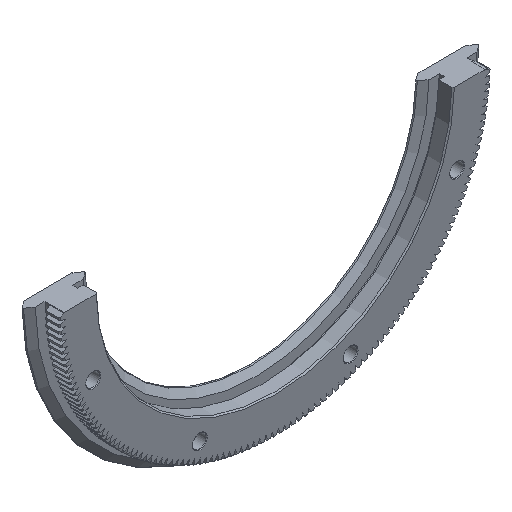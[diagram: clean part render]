
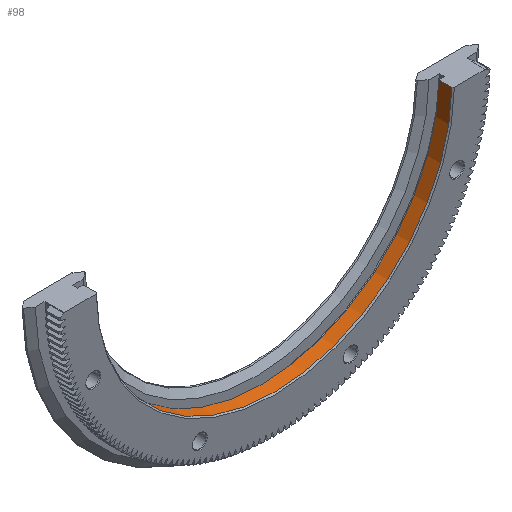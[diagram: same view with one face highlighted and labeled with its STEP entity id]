
A CAD part, isometric view. The second image highlights one B-rep face of the part: STEP entity #98.
In plain terms, the highlighted cylindrical face has radius 71.8 mm (diameter 143.6 mm), a partial arc.
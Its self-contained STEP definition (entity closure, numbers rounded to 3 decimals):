
#98 = ADVANCED_FACE( '', ( #811 ), #812, .F. );
#811 = FACE_OUTER_BOUND( '', #2196, .T. );
#812 = CYLINDRICAL_SURFACE( '', #2197, 71.8 );
#2196 = EDGE_LOOP( '', ( #3928, #3929, #3930, #3931 ) );
#2197 = AXIS2_PLACEMENT_3D( '', #3932, #3933, #3934 );
#3928 = ORIENTED_EDGE( '', *, *, #9444, .F. );
#3929 = ORIENTED_EDGE( '', *, *, #9160, .T. );
#3930 = ORIENTED_EDGE( '', *, *, #9445, .T. );
#3931 = ORIENTED_EDGE( '', *, *, #9436, .T. );
#3932 = CARTESIAN_POINT( '', ( 0., 0., 0. ) );
#3933 = DIRECTION( '', ( 0., 1., 0. ) );
#3934 = DIRECTION( '', ( 0., 0., -1. ) );
#9160 = EDGE_CURVE( '', #10964, #10962, #10965, .T. );
#9436 = EDGE_CURVE( '', #11500, #11498, #11501, .F. );
#9444 = EDGE_CURVE( '', #10964, #11498, #11514, .T. );
#9445 = EDGE_CURVE( '', #10962, #11500, #11515, .T. );
#10962 = VERTEX_POINT( '', #13894 );
#10964 = VERTEX_POINT( '', #13899 );
#10965 = LINE( '', #13900, #13901 );
#11498 = VERTEX_POINT( '', #14515 );
#11500 = VERTEX_POINT( '', #14518 );
#11501 = LINE( '', #14519, #14520 );
#11514 = CIRCLE( '', #14537, 71.8 );
#11515 = CIRCLE( '', #14538, 71.8 );
#13894 = CARTESIAN_POINT( '', ( -71.793, 0.5, -1. ) );
#13899 = CARTESIAN_POINT( '', ( -71.793, 5.75, -1. ) );
#13900 = CARTESIAN_POINT( '', ( -71.793, 0., -1. ) );
#13901 = VECTOR( '', #18483, 1000. );
#14515 = CARTESIAN_POINT( '', ( 71.793, 5.75, -1. ) );
#14518 = CARTESIAN_POINT( '', ( 71.793, 0.5, -1. ) );
#14519 = CARTESIAN_POINT( '', ( 71.793, 0., -1. ) );
#14520 = VECTOR( '', #19217, 1000. );
#14537 = AXIS2_PLACEMENT_3D( '', #19234, #19235, #19236 );
#14538 = AXIS2_PLACEMENT_3D( '', #19237, #19238, #19239 );
#18483 = DIRECTION( '', ( 0., -1., 0. ) );
#19217 = DIRECTION( '', ( 0., -1., 0. ) );
#19234 = CARTESIAN_POINT( '', ( 0., 5.75, 0. ) );
#19235 = DIRECTION( '', ( 0., -1., 0. ) );
#19236 = DIRECTION( '', ( 0., 0., -1. ) );
#19237 = CARTESIAN_POINT( '', ( 0., 0.5, 0. ) );
#19238 = DIRECTION( '', ( 0., -1., 0. ) );
#19239 = DIRECTION( '', ( 0., 0., -1. ) );
